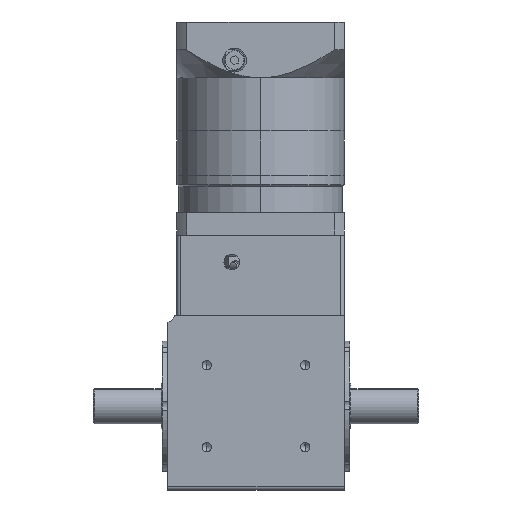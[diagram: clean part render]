
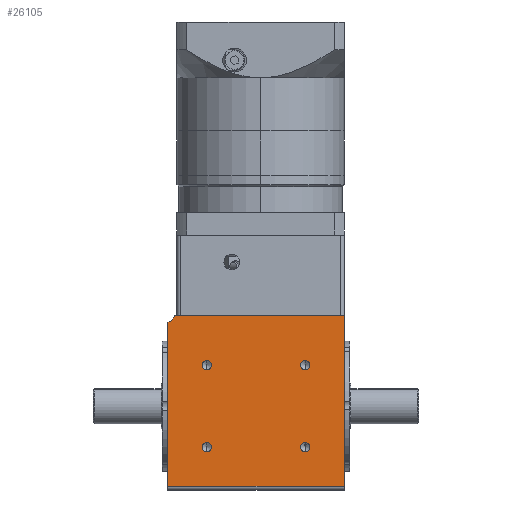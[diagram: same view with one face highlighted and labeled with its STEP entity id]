
A CAD part, front view. The second image highlights one B-rep face of the part: STEP entity #26105.
In plain terms, the highlighted planar face has unit normal (0, -1, 0).
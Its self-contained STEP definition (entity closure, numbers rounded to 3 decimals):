
#67 = CARTESIAN_POINT ( 'NONE',  ( 36.257, -60.486, 25.5 ) ) ;
#388 = DIRECTION ( 'NONE',  ( 0., 1., 0. ) ) ;
#474 = FACE_BOUND ( 'NONE', #27096, .T. ) ;
#921 = EDGE_CURVE ( 'NONE', #43797, #8893, #7849, .T. ) ;
#1041 = ORIENTED_EDGE ( 'NONE', *, *, #33104, .F. ) ;
#1184 = DIRECTION ( 'NONE',  ( 0., 0., -1. ) ) ;
#1267 = ORIENTED_EDGE ( 'NONE', *, *, #27288, .T. ) ;
#1493 = VECTOR ( 'NONE', #15455, 1000. ) ;
#2448 = VECTOR ( 'NONE', #25323, 1000. ) ;
#3737 = EDGE_CURVE ( 'NONE', #8276, #43163, #30255, .T. ) ;
#4027 = ORIENTED_EDGE ( 'NONE', *, *, #16468, .F. ) ;
#4688 = ORIENTED_EDGE ( 'NONE', *, *, #43170, .F. ) ;
#5009 = DIRECTION ( 'NONE',  ( 0., 0., -1. ) ) ;
#5328 = CARTESIAN_POINT ( 'NONE',  ( -33.844, -60.486, 94. ) ) ;
#6148 = DIRECTION ( 'NONE',  ( 0., 0., -1. ) ) ;
#7085 = ORIENTED_EDGE ( 'NONE', *, *, #33550, .F. ) ;
#7849 = CIRCLE ( 'NONE', #26185, 2.5 ) ;
#8276 = VERTEX_POINT ( 'NONE', #33414 ) ;
#8414 = VERTEX_POINT ( 'NONE', #44173 ) ;
#8893 = VERTEX_POINT ( 'NONE', #33367 ) ;
#9231 = VERTEX_POINT ( 'NONE', #31381 ) ;
#9941 = VERTEX_POINT ( 'NONE', #31672 ) ;
#10416 = ORIENTED_EDGE ( 'NONE', *, *, #15991, .T. ) ;
#10434 = LINE ( 'NONE', #30580, #41093 ) ;
#10863 = CARTESIAN_POINT ( 'NONE',  ( -37.743, -60.486, 94. ) ) ;
#10887 = ORIENTED_EDGE ( 'NONE', *, *, #15650, .T. ) ;
#10934 = ORIENTED_EDGE ( 'NONE', *, *, #921, .F. ) ;
#11529 = LINE ( 'NONE', #14629, #2448 ) ;
#12235 = CARTESIAN_POINT ( 'NONE',  ( 36.257, -60.486, 67. ) ) ;
#12843 = ORIENTED_EDGE ( 'NONE', *, *, #31617, .T. ) ;
#13365 = CARTESIAN_POINT ( 'NONE',  ( -16.743, -60.486, 23. ) ) ;
#13711 = VERTEX_POINT ( 'NONE', #28368 ) ;
#14100 = EDGE_LOOP ( 'NONE', ( #10934, #24755 ) ) ;
#14140 = DIRECTION ( 'NONE',  ( -1., 0., 0. ) ) ;
#14255 = VERTEX_POINT ( 'NONE', #25447 ) ;
#14629 = CARTESIAN_POINT ( 'NONE',  ( 57.257, -60.486, 94. ) ) ;
#15331 = AXIS2_PLACEMENT_3D ( 'NONE', #37082, #23439, #30347 ) ;
#15455 = DIRECTION ( 'NONE',  ( 0., 0., 1. ) ) ;
#15644 = ORIENTED_EDGE ( 'NONE', *, *, #20939, .F. ) ;
#15650 = EDGE_CURVE ( 'NONE', #35584, #43323, #21746, .T. ) ;
#15918 = AXIS2_PLACEMENT_3D ( 'NONE', #16042, #36800, #6148 ) ;
#15991 = EDGE_CURVE ( 'NONE', #13711, #35584, #11529, .T. ) ;
#16042 = CARTESIAN_POINT ( 'NONE',  ( 36.257, -60.486, 23. ) ) ;
#16150 = AXIS2_PLACEMENT_3D ( 'NONE', #12235, #43358, #22823 ) ;
#16326 = AXIS2_PLACEMENT_3D ( 'NONE', #27104, #37315, #44196 ) ;
#16448 = VERTEX_POINT ( 'NONE', #67 ) ;
#16468 = EDGE_CURVE ( 'NONE', #9231, #44500, #10434, .T. ) ;
#16631 = DIRECTION ( 'NONE',  ( 0., -1., 0. ) ) ;
#17739 = EDGE_LOOP ( 'NONE', ( #1267, #10416, #10887, #12843, #4027 ) ) ;
#17916 = ORIENTED_EDGE ( 'NONE', *, *, #3737, .F. ) ;
#18216 = FACE_BOUND ( 'NONE', #14100, .T. ) ;
#18296 = DIRECTION ( 'NONE',  ( 0., -1., 0. ) ) ;
#18487 = CARTESIAN_POINT ( 'NONE',  ( -37.743, -60.486, 90.101 ) ) ;
#18745 = LINE ( 'NONE', #39186, #1493 ) ;
#19947 = CARTESIAN_POINT ( 'NONE',  ( 36.257, -60.486, 23. ) ) ;
#20939 = EDGE_CURVE ( 'NONE', #43163, #8276, #22214, .T. ) ;
#21494 = CARTESIAN_POINT ( 'NONE',  ( 36.257, -60.486, 67. ) ) ;
#21746 = CIRCLE ( 'NONE', #15331, 5. ) ;
#22013 = FACE_BOUND ( 'NONE', #29100, .T. ) ;
#22214 = CIRCLE ( 'NONE', #23005, 2.5 ) ;
#22407 = CIRCLE ( 'NONE', #22882, 2.5 ) ;
#22823 = DIRECTION ( 'NONE',  ( 0., 0., -1. ) ) ;
#22882 = AXIS2_PLACEMENT_3D ( 'NONE', #19947, #16631, #33509 ) ;
#23005 = AXIS2_PLACEMENT_3D ( 'NONE', #21494, #18296, #1184 ) ;
#23032 = CARTESIAN_POINT ( 'NONE',  ( -37.743, -60.486, 94. ) ) ;
#23439 = DIRECTION ( 'NONE',  ( 0., 1., 0. ) ) ;
#24352 = EDGE_LOOP ( 'NONE', ( #15644, #17916 ) ) ;
#24755 = ORIENTED_EDGE ( 'NONE', *, *, #29534, .F. ) ;
#24987 = LINE ( 'NONE', #23032, #29843 ) ;
#25299 = DIRECTION ( 'NONE',  ( 0., -1., 0. ) ) ;
#25323 = DIRECTION ( 'NONE',  ( -1., 0., 0. ) ) ;
#25447 = CARTESIAN_POINT ( 'NONE',  ( -16.743, -60.486, 64.5 ) ) ;
#26105 = ADVANCED_FACE ( 'NONE', ( #474, #27400, #18216, #22013, #31156 ), #38390, .F. ) ;
#26185 = AXIS2_PLACEMENT_3D ( 'NONE', #13365, #30418, #27246 ) ;
#26468 = DIRECTION ( 'NONE',  ( 0., -1., 0. ) ) ;
#26651 = CIRCLE ( 'NONE', #33218, 2.5 ) ;
#27096 = EDGE_LOOP ( 'NONE', ( #1041, #42306 ) ) ;
#27104 = CARTESIAN_POINT ( 'NONE',  ( -16.743, -60.486, 23. ) ) ;
#27246 = DIRECTION ( 'NONE',  ( 0., 0., -1. ) ) ;
#27288 = EDGE_CURVE ( 'NONE', #9231, #13711, #18745, .T. ) ;
#27400 = FACE_BOUND ( 'NONE', #24352, .T. ) ;
#28368 = CARTESIAN_POINT ( 'NONE',  ( 57.257, -60.486, 94. ) ) ;
#29100 = EDGE_LOOP ( 'NONE', ( #4688, #7085 ) ) ;
#29534 = EDGE_CURVE ( 'NONE', #8893, #43797, #36938, .T. ) ;
#29632 = CARTESIAN_POINT ( 'NONE',  ( -16.743, -60.486, 67. ) ) ;
#29843 = VECTOR ( 'NONE', #36232, 1000. ) ;
#30255 = CIRCLE ( 'NONE', #16150, 2.5 ) ;
#30269 = CIRCLE ( 'NONE', #32077, 2.5 ) ;
#30347 = DIRECTION ( 'NONE',  ( 0., 0., -1. ) ) ;
#30418 = DIRECTION ( 'NONE',  ( 0., -1., 0. ) ) ;
#30580 = CARTESIAN_POINT ( 'NONE',  ( -37.743, -60.486, 2. ) ) ;
#31002 = CARTESIAN_POINT ( 'NONE',  ( -16.743, -60.486, 20.5 ) ) ;
#31040 = EDGE_CURVE ( 'NONE', #9941, #14255, #26651, .T. ) ;
#31156 = FACE_OUTER_BOUND ( 'NONE', #17739, .T. ) ;
#31381 = CARTESIAN_POINT ( 'NONE',  ( 57.257, -60.486, 2. ) ) ;
#31617 = EDGE_CURVE ( 'NONE', #43323, #44500, #24987, .T. ) ;
#31672 = CARTESIAN_POINT ( 'NONE',  ( -16.743, -60.486, 69.5 ) ) ;
#31935 = CARTESIAN_POINT ( 'NONE',  ( -16.743, -60.486, 67. ) ) ;
#32077 = AXIS2_PLACEMENT_3D ( 'NONE', #29632, #26468, #40563 ) ;
#33104 = EDGE_CURVE ( 'NONE', #14255, #9941, #30269, .T. ) ;
#33218 = AXIS2_PLACEMENT_3D ( 'NONE', #31935, #25299, #5009 ) ;
#33367 = CARTESIAN_POINT ( 'NONE',  ( -16.743, -60.486, 25.5 ) ) ;
#33414 = CARTESIAN_POINT ( 'NONE',  ( 36.257, -60.486, 69.5 ) ) ;
#33509 = DIRECTION ( 'NONE',  ( 0., 0., -1. ) ) ;
#33550 = EDGE_CURVE ( 'NONE', #16448, #8414, #41999, .T. ) ;
#34947 = DIRECTION ( 'NONE',  ( 0., 0., 1. ) ) ;
#35584 = VERTEX_POINT ( 'NONE', #5328 ) ;
#36232 = DIRECTION ( 'NONE',  ( 0., 0., -1. ) ) ;
#36800 = DIRECTION ( 'NONE',  ( 0., -1., 0. ) ) ;
#36928 = AXIS2_PLACEMENT_3D ( 'NONE', #10863, #388, #34947 ) ;
#36938 = CIRCLE ( 'NONE', #16326, 2.5 ) ;
#37080 = CARTESIAN_POINT ( 'NONE',  ( 36.257, -60.486, 64.5 ) ) ;
#37082 = CARTESIAN_POINT ( 'NONE',  ( -38.743, -60.486, 95. ) ) ;
#37315 = DIRECTION ( 'NONE',  ( 0., -1., 0. ) ) ;
#38390 = PLANE ( 'NONE',  #36928 ) ;
#39186 = CARTESIAN_POINT ( 'NONE',  ( 57.257, -60.486, 94. ) ) ;
#40563 = DIRECTION ( 'NONE',  ( 0., 0., -1. ) ) ;
#41093 = VECTOR ( 'NONE', #14140, 1000. ) ;
#41999 = CIRCLE ( 'NONE', #15918, 2.5 ) ;
#42306 = ORIENTED_EDGE ( 'NONE', *, *, #31040, .F. ) ;
#43163 = VERTEX_POINT ( 'NONE', #37080 ) ;
#43170 = EDGE_CURVE ( 'NONE', #8414, #16448, #22407, .T. ) ;
#43216 = CARTESIAN_POINT ( 'NONE',  ( -37.743, -60.486, 2. ) ) ;
#43323 = VERTEX_POINT ( 'NONE', #18487 ) ;
#43358 = DIRECTION ( 'NONE',  ( 0., -1., 0. ) ) ;
#43797 = VERTEX_POINT ( 'NONE', #31002 ) ;
#44173 = CARTESIAN_POINT ( 'NONE',  ( 36.257, -60.486, 20.5 ) ) ;
#44196 = DIRECTION ( 'NONE',  ( 0., 0., -1. ) ) ;
#44500 = VERTEX_POINT ( 'NONE', #43216 ) ;
